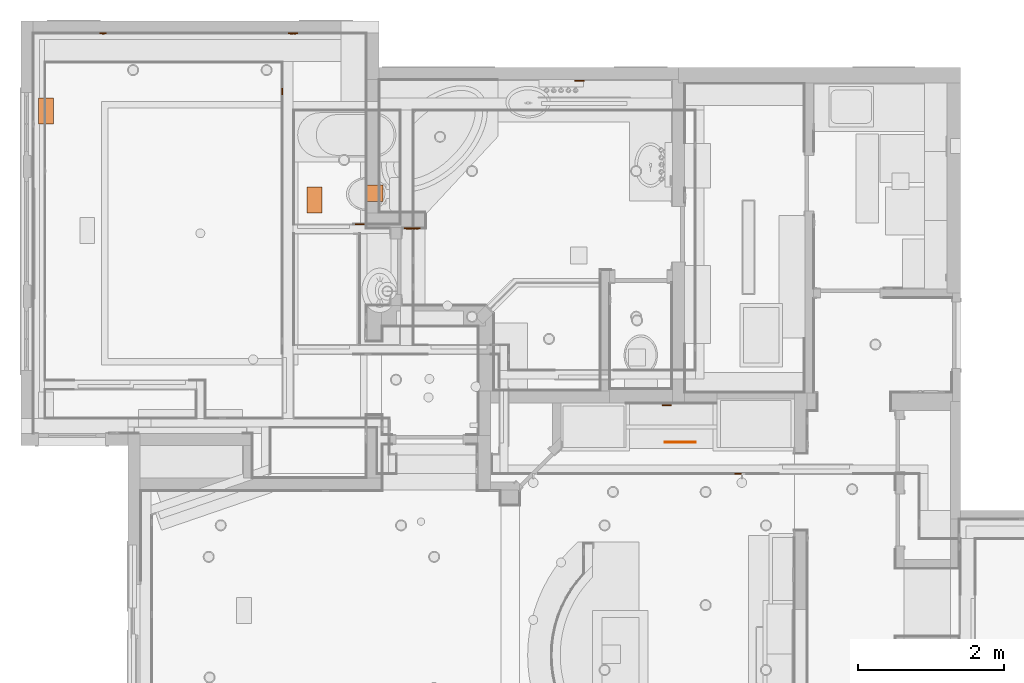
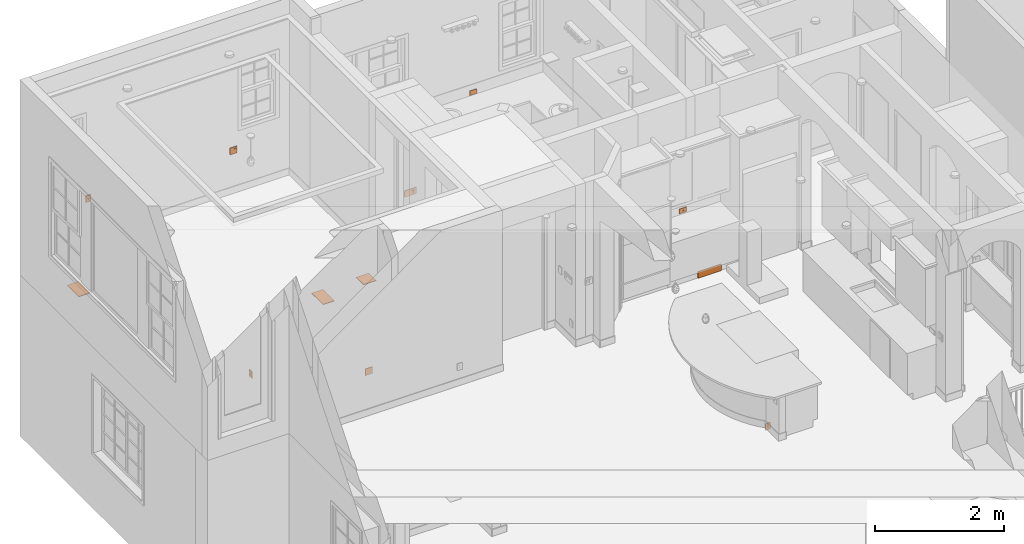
# One storey, part 68 of 81: 12 proxies.
"""IFC2X3 building model written with IfcOpenShell, lengths in feet."""

from ifc_helpers import new_model, entity, si_unit, converted_unit, derived_unit, direction, frame, frame_2d, origin, origin_2d_with_axis, place, context, subcontext, project, spatial, polyline, circle_curve, parameter, trimmed, segment, composite_curve, rectangle, outline, extrude, source, transform, mapped, material, type_object, type_shapes, element, save


model = new_model("IFC2X3")

# Units and contexts
model_context = context("Model", 3, precision=0.0001, world=origin(), true_north=direction((6.12303176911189e-17, 1.0)))
body_context = subcontext(model_context, "Body", "Model", "MODEL_VIEW")
ifc_project = project(units=[converted_unit("LENGTHUNIT", "FOOT", entity("IfcRatioMeasure", 0.3048), si_unit("LENGTHUNIT", "METRE"), dimensions=[1, 0, 0, 0, 0, 0, 0]), converted_unit("AREAUNIT", "SQUARE FOOT", entity("IfcRatioMeasure", 0.09290304), si_unit("AREAUNIT", "SQUARE_METRE"), dimensions=[2, 0, 0, 0, 0, 0, 0]), converted_unit("VOLUMEUNIT", "CUBIC FOOT", entity("IfcRatioMeasure", 0.028316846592), si_unit("VOLUMEUNIT", "CUBIC_METRE"), dimensions=[3, 0, 0, 0, 0, 0, 0]), converted_unit("PLANEANGLEUNIT", "DEGREE", entity("IfcRatioMeasure", 0.0174532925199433), si_unit("PLANEANGLEUNIT", "RADIAN"), dimensions=[0, 0, 0, 0, 0, 0, 0]), si_unit("MASSUNIT", "GRAM", prefix="KILO"), derived_unit("MASSDENSITYUNIT", [(si_unit("MASSUNIT", "GRAM", prefix="KILO"), 1), (si_unit("LENGTHUNIT", "METRE"), -3)]), derived_unit("MOMENTOFINERTIAUNIT", [(si_unit("LENGTHUNIT", "METRE"), 4)]), si_unit("TIMEUNIT", "SECOND"), si_unit("FREQUENCYUNIT", "HERTZ"), si_unit("THERMODYNAMICTEMPERATUREUNIT", "DEGREE_CELSIUS"), derived_unit("THERMALTRANSMITTANCEUNIT", [(si_unit("MASSUNIT", "GRAM", prefix="KILO"), 1), (si_unit("THERMODYNAMICTEMPERATUREUNIT", "KELVIN"), -1), (si_unit("TIMEUNIT", "SECOND"), -3)]), derived_unit("VOLUMETRICFLOWRATEUNIT", [(si_unit("LENGTHUNIT", "METRE"), 3), (si_unit("TIMEUNIT", "SECOND"), -1)]), si_unit("ELECTRICCURRENTUNIT", "AMPERE"), si_unit("ELECTRICVOLTAGEUNIT", "VOLT"), si_unit("POWERUNIT", "WATT"), si_unit("FORCEUNIT", "NEWTON"), si_unit("ILLUMINANCEUNIT", "LUX"), si_unit("LUMINOUSFLUXUNIT", "LUMEN"), si_unit("LUMINOUSINTENSITYUNIT", "CANDELA"), derived_unit("USERDEFINED", [(si_unit("MASSUNIT", "GRAM", prefix="KILO"), -1), (si_unit("LENGTHUNIT", "METRE"), -2), (si_unit("TIMEUNIT", "SECOND"), 3), (si_unit("LUMINOUSFLUXUNIT", "LUMEN"), 1)]), derived_unit("LINEARVELOCITYUNIT", [(si_unit("LENGTHUNIT", "METRE"), 1), (si_unit("TIMEUNIT", "SECOND"), -1)]), si_unit("PRESSUREUNIT", "PASCAL"), derived_unit("USERDEFINED", [(si_unit("LENGTHUNIT", "METRE"), -2), (si_unit("MASSUNIT", "GRAM", prefix="KILO"), 1), (si_unit("TIMEUNIT", "SECOND"), -2)]), derived_unit("LINEARFORCEUNIT", [(si_unit("MASSUNIT", "GRAM", prefix="KILO"), 1), (si_unit("LENGTHUNIT", "METRE"), 1), (si_unit("TIMEUNIT", "SECOND"), -2), (si_unit("LENGTHUNIT", "METRE"), -1)]), derived_unit("PLANARFORCEUNIT", [(si_unit("MASSUNIT", "GRAM", prefix="KILO"), 1), (si_unit("LENGTHUNIT", "METRE"), 1), (si_unit("TIMEUNIT", "SECOND"), -2), (si_unit("LENGTHUNIT", "METRE"), -2)])], contexts=[model_context])

# Site, building, storey
site_placement = place(None, origin())
site = spatial("IfcSite", under=ifc_project, at=site_placement, Name="Default", CompositionType="ELEMENT")
building_placement = place(site_placement, origin())
building = spatial("IfcBuilding", under=site, at=building_placement, CompositionType="ELEMENT")
storey_placement = place(building_placement, origin())
storey = spatial("IfcBuildingStorey", under=building, at=storey_placement, Name="First floor", CompositionType="ELEMENT", Elevation=0.0)

# Proxies
ifc_material = material(Name="Default New Material")
building_element_proxy_type_1 = type_object("IfcBuildingElementProxyType", Name="Switch 4:Switch 4", PredefinedType="NOTDEFINED", material=ifc_material)
shared_shape_1 = source(origin(), body_context, "Body", "SweptSolid", [
    extrude(outline(composite_curve([segment(polyline([(-0.0309162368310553, -0.0465871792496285), (0.0309162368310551, -0.0465871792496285)]), True, "CONTINUOUS"), segment(trimmed(circle_curve(frame_2d((-0.000264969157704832, 0.0), x_axis=(-1.0, 0.0)), 0.056059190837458), [parameter(123.794740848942)], [parameter(236.205259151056)], True, "PARAMETER"), True, "CONTINUOUS"), segment(polyline([(0.0309162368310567, 0.0465871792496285), (-0.0309162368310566, 0.0465871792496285)]), True, "CONTINUOUS"), segment(trimmed(circle_curve(frame_2d((0.000264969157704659, 0.0), x_axis=(1.0, 0.0)), 0.056059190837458), [parameter(123.794740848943)], [parameter(236.205259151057)], True, "PARAMETER"), True, "CONTINUOUS")], self_intersect=False), holes=[polyline([(0.0141623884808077, 0.0279286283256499), (0.0261732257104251, 0.0279286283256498), (0.026173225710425, -0.00693584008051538), (0.0141623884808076, -0.00693584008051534), (0.0141623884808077, 0.0279286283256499)]), polyline([(-0.0152702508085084, 0.0250466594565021), (-0.0152702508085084, -0.00448340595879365), (-0.0278178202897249, -0.00448340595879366), (-0.0278178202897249, 0.0250466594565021), (-0.0152702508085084, 0.0250466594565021)]), composite_curve([segment(polyline([(-0.0120315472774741, -0.041319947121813), (-0.0120315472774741, -0.0300186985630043)]), True, "CONTINUOUS"), segment(trimmed(circle_curve(frame_2d((-0.000284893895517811, -0.0300186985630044), x_axis=(-1.0, 0.0)), 0.0117466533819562), [parameter(180.0)], [parameter(0.0)], True, "PARAMETER"), False, "CONTINUOUS"), segment(polyline([(0.0114617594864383, -0.0300186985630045), (0.0114617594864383, -0.0413199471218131)]), True, "CONTINUOUS"), segment(polyline([(0.0114617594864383, -0.0413199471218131), (-0.0120315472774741, -0.041319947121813)]), True, "CONTINUOUS")], self_intersect=False)]), frame((-0.0114927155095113, 0.0416666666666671, 0.27060332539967), z_axis=(0.0, 1.0, 0.0), x_axis=(-1.0, 0.0, 0.0)), (0.0, 0.0, 1.0), 0.00420900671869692),
    extrude(outline(composite_curve([segment(polyline([(-0.0307631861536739, -0.0463565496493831), (0.0307631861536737, -0.0463565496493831)]), True, "CONTINUOUS"), segment(trimmed(circle_curve(frame_2d((-0.000263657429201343, 0.0), x_axis=(-1.0, 0.0)), 0.0557816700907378), [parameter(123.794740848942)], [parameter(236.205259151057)], True, "PARAMETER"), True, "CONTINUOUS"), segment(polyline([(0.030763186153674, 0.0463565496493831), (-0.0307631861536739, 0.0463565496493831)]), True, "CONTINUOUS"), segment(trimmed(circle_curve(frame_2d((0.00026365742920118, 0.0), x_axis=(1.0, 0.0)), 0.0557816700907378), [parameter(123.794740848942)], [parameter(236.205259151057)], True, "PARAMETER"), True, "CONTINUOUS")], self_intersect=False), holes=[polyline([(0.0140922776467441, 0.0247228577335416), (0.026043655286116, 0.0247228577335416), (0.0260436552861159, -0.00472751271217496), (0.014092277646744, -0.00472751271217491), (0.0140922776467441, 0.0247228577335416)]), polyline([(-0.0151946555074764, 0.0249226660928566), (-0.0151946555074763, -0.0044612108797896), (-0.0276801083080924, -0.00446121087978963), (-0.0276801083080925, 0.0249226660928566), (-0.0151946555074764, 0.0249226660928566)]), composite_curve([segment(polyline([(-0.0119719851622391, -0.0411153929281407), (-0.011971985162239, -0.0298700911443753)]), True, "CONTINUOUS"), segment(trimmed(circle_curve(frame_2d((-0.000283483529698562, -0.0298700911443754), x_axis=(-1.0, 0.0)), 0.0116885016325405), [parameter(180.0)], [parameter(0.0)], True, "PARAMETER"), False, "CONTINUOUS"), segment(polyline([(0.0114050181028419, -0.0298700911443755), (0.0114050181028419, -0.0411153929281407)]), True, "CONTINUOUS"), segment(polyline([(0.0114050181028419, -0.0411153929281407), (-0.0119719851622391, -0.0411153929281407)]), True, "CONTINUOUS")], self_intersect=False)]), frame((-0.0114927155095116, 0.0416666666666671, 0.145832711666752), z_axis=(0.0, 1.0, 0.0), x_axis=(-1.0, 0.0, 0.0)), (0.0, 0.0, 1.0), 0.00420900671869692),
    extrude(rectangle(XDim=0.0416666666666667, YDim=0.291666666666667, at=frame_2d((0.0, 1.38777878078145e-17), x_axis=(1.0, 0.0))), frame((-0.0114927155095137, 0.0208333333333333, 0.0), z_axis=(0.0, 0.0, 1.0), x_axis=(0.0, -1.0, 0.0)), (0.0, 0.0, 1.0), 0.416666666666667),
])
type_shapes(building_element_proxy_type_1, [shared_shape_1])
for number, where, z_axis, x_axis, name in (
    (1, (10.3635072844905, 29.7916666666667, 0.958335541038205), (0.0, 0.0, 1.0), (-1.0, 0.0, 0.0), "Switch 4:Switch 4"),
    (2, (-10.0833333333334, 46.9698260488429, 0.958333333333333), (0.0, 0.0, 1.0), (0.0, 1.0, 0.0), "Switch 4:Switch 4"),
    (3, (-18.1666666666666, 49.5833333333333, 13.125), (0.0, 0.0, 1.0), (-1.0, 0.0, 0.0), "Switch 4:Switch 4"),
):
    element("IfcBuildingElementProxy", number, at=place(storey_placement, frame(where, z_axis=z_axis, x_axis=x_axis)), inside=storey, type_object=building_element_proxy_type_1, material=ifc_material, Name=name, ObjectType="Switch 4:Switch 4", context=body_context, shape_type="MappedRepresentation", body=[
        mapped(shared_shape_1, transform((0.0, 0.0, 0.0), scale=1.0)),
    ])
building_element_proxy_type_2 = type_object("IfcBuildingElementProxyType", Name="Ceiling Duct:Ceiling Duct", PredefinedType="NOTDEFINED", material=ifc_material)
shared_shape_2 = source(origin(), body_context, "Body", "SweptSolid", [
    extrude(rectangle(XDim=0.666666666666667, YDim=1.16666666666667, at=origin_2d_with_axis()), frame((0.583333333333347, -0.333333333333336, -0.0416666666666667), z_axis=(0.0, 0.0, 1.0), x_axis=(0.0, 1.0, 0.0)), (0.0, 0.0, 1.0), 0.0416666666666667),
])
type_shapes(building_element_proxy_type_2, [shared_shape_2])
proxy_1_placement = place(storey_placement, frame((-9.0, 41.5, 8.41666666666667), z_axis=(0.0, 0.0, 1.0), x_axis=(0.0, 1.0, 0.0)))
element("IfcBuildingElementProxy", 4, at=proxy_1_placement, inside=storey, type_object=building_element_proxy_type_2, material=ifc_material, Name="Ceiling Duct:Ceiling Duct", ObjectType="Ceiling Duct:Ceiling Duct", context=body_context, shape_type="MappedRepresentation", body=[
    mapped(shared_shape_2, transform((0.0, 0.0, 0.0), scale=1.0)),
])
building_element_proxy_type_3 = type_object("IfcBuildingElementProxyType", Name="Switch 22:Switch 22", PredefinedType="NOTDEFINED", material=ifc_material)
shared_shape_3 = source(origin(), body_context, "Body", "SweptSolid", [
    extrude(outline(polyline([(-0.0259922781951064, -0.0993451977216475), (-0.00568037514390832, -0.0993451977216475), (-0.00432436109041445, -0.021559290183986), (0.021153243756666, 0.109511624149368), (0.0148437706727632, 0.110738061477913), (-0.0259922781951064, -0.0993451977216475)])), frame((0.216904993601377, 0.0482254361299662, 0.203805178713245), z_axis=(1.0, 0.0, 0.0), x_axis=(0.0, 0.981627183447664, 0.190808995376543)), (0.0, 0.0, 1.0), 0.104166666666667),
    extrude(outline(polyline([(-0.0259922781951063, -0.0993451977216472), (-0.00568037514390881, -0.0993451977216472), (-0.00432436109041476, -0.0215592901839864), (0.0211532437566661, 0.109511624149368), (0.0148437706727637, 0.110738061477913), (-0.0259922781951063, -0.0993451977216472)])), frame((0.0752383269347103, 0.0482254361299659, 0.203805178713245), z_axis=(1.0, 0.0, 0.0), x_axis=(0.0, 0.981627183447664, 0.190808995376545)), (0.0, 0.0, 1.0), 0.104166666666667),
    extrude(outline(polyline([(-0.102069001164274, -0.00649102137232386), (0.111946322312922, -0.00649102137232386), (0.111946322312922, -6.34558053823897e-05), (-0.0235644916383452, -6.34558053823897e-05), (-0.0982591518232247, 0.0131089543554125), (-0.102069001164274, -0.00649102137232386)])), frame((-0.0664283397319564, 0.0481576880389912, 0.2120154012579), z_axis=(1.0, 0.0, 0.0), x_axis=(0.0, 0.0, -1.0)), (0.0, 0.0, 1.0), 0.104166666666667),
    extrude(outline(polyline([(-0.102069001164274, -0.00649102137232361), (0.111946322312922, -0.00649102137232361), (0.111946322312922, -6.34558053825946e-05), (-0.0235644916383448, -6.34558053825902e-05), (-0.0982591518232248, 0.0131089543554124), (-0.102069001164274, -0.00649102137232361)])), frame((-0.208095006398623, 0.048157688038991, 0.2120154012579), z_axis=(1.0, 0.0, 0.0), x_axis=(0.0, 0.0, -1.0)), (0.0, 0.0, 1.0), 0.104166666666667),
    extrude(rectangle(XDim=0.0416666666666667, YDim=0.708333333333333, at=origin_2d_with_axis()), frame((0.0564883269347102, 0.0208333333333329, 0.0), z_axis=(0.0, 0.0, 1.0), x_axis=(0.0, -1.0, 0.0)), (0.0, 0.0, 1.0), 0.416666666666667),
])
type_shapes(building_element_proxy_type_3, [shared_shape_3])
proxy_2_placement = place(storey_placement, frame((-4.21434500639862, 40.8329881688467, 13.9583333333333), z_axis=(0.0, 0.0, 1.0), x_axis=(-1.0, 0.0, 0.0)))
element("IfcBuildingElementProxy", 5, at=proxy_2_placement, inside=storey, type_object=building_element_proxy_type_3, material=ifc_material, Name="Switch 22:Switch 22", ObjectType="Switch 22:Switch 22", context=body_context, shape_type="MappedRepresentation", body=[
    mapped(shared_shape_3, transform((0.0, 0.0, 0.0), scale=1.0)),
])
building_element_proxy_type_4 = type_object("IfcBuildingElementProxyType", Name="Switch 15:Switch 15", PredefinedType="NOTDEFINED", material=ifc_material)
shared_shape_4 = source(origin(), body_context, "Body", "SweptSolid", [
    extrude(outline(composite_curve([segment(polyline([(-0.0309162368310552, -0.0465871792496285), (0.030916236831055, -0.0465871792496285)]), True, "CONTINUOUS"), segment(trimmed(circle_curve(frame_2d((-0.000264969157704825, 0.0), x_axis=(-1.0, 0.0)), 0.056059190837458), [parameter(123.794740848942)], [parameter(236.205259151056)], True, "PARAMETER"), True, "CONTINUOUS"), segment(polyline([(0.0309162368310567, 0.0465871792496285), (-0.0309162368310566, 0.0465871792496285)]), True, "CONTINUOUS"), segment(trimmed(circle_curve(frame_2d((0.000264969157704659, 0.0), x_axis=(1.0, 0.0)), 0.056059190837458), [parameter(123.794740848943)], [parameter(236.205259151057)], True, "PARAMETER"), True, "CONTINUOUS")], self_intersect=False), holes=[polyline([(0.0141623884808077, 0.0279286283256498), (0.026173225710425, 0.0279286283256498), (0.0261732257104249, -0.00693584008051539), (0.0141623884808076, -0.00693584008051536), (0.0141623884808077, 0.0279286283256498)]), polyline([(-0.0152702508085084, 0.0250466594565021), (-0.0152702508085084, -0.00448340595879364), (-0.0278178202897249, -0.00448340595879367), (-0.027817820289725, 0.025046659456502), (-0.0152702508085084, 0.0250466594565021)]), composite_curve([segment(polyline([(-0.0120315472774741, -0.041319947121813), (-0.0120315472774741, -0.0300186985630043)]), True, "CONTINUOUS"), segment(trimmed(circle_curve(frame_2d((-0.000284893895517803, -0.0300186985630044), x_axis=(-1.0, 0.0)), 0.0117466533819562), [parameter(180.0)], [parameter(0.0)], True, "PARAMETER"), False, "CONTINUOUS"), segment(polyline([(0.0114617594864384, -0.0300186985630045), (0.0114617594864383, -0.0413199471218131)]), True, "CONTINUOUS"), segment(polyline([(0.0114617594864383, -0.0413199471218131), (-0.0120315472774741, -0.041319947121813)]), True, "CONTINUOUS")], self_intersect=False)]), frame((-0.0667122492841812, 0.0416666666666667, 0.14583333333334), z_axis=(0.0, 1.0, 0.0), x_axis=(0.0, 0.0, -1.0)), (0.0, 0.0, 1.0), 0.00420900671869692),
    extrude(outline(composite_curve([segment(polyline([(-0.0307631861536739, -0.0463565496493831), (0.0307631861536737, -0.0463565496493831)]), True, "CONTINUOUS"), segment(trimmed(circle_curve(frame_2d((-0.000263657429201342, 0.0), x_axis=(-1.0, 0.0)), 0.0557816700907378), [parameter(123.794740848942)], [parameter(236.205259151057)], True, "PARAMETER"), True, "CONTINUOUS"), segment(polyline([(0.030763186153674, 0.0463565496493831), (-0.0307631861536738, 0.0463565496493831)]), True, "CONTINUOUS"), segment(trimmed(circle_curve(frame_2d((0.000263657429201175, 0.0), x_axis=(1.0, 0.0)), 0.0557816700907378), [parameter(123.794740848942)], [parameter(236.205259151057)], True, "PARAMETER"), True, "CONTINUOUS")], self_intersect=False), holes=[polyline([(0.0140922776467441, 0.0247228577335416), (0.026043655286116, 0.0247228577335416), (0.0260436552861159, -0.00472751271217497), (0.014092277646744, -0.00472751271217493), (0.0140922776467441, 0.0247228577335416)]), polyline([(-0.0151946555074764, 0.0249226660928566), (-0.0151946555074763, -0.00446121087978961), (-0.0276801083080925, -0.00446121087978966), (-0.0276801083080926, 0.0249226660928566), (-0.0151946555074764, 0.0249226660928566)]), composite_curve([segment(polyline([(-0.0119719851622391, -0.0411153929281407), (-0.0119719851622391, -0.0298700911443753)]), True, "CONTINUOUS"), segment(trimmed(circle_curve(frame_2d((-0.000283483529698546, -0.0298700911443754), x_axis=(-1.0, 0.0)), 0.0116885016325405), [parameter(180.0)], [parameter(1.01777749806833e-13)], True, "PARAMETER"), False, "CONTINUOUS"), segment(polyline([(0.011405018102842, -0.0298700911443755), (0.0114050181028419, -0.0411153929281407)]), True, "CONTINUOUS"), segment(polyline([(0.0114050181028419, -0.0411153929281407), (-0.0119719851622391, -0.0411153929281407)]), True, "CONTINUOUS")], self_intersect=False)]), frame((0.058058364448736, 0.0416666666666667, 0.145833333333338), z_axis=(0.0, 1.0, 0.0), x_axis=(0.0, 0.0, -1.0)), (0.0, 0.0, 1.0), 0.00420900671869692),
    extrude(rectangle(XDim=0.0416666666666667, YDim=0.416666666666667, at=origin_2d_with_axis()), frame((-0.00444225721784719, 0.0208333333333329, 0.0), z_axis=(0.0, 0.0, 1.0), x_axis=(0.0, -1.0, 0.0)), (0.0, 0.0, 1.0), 0.291666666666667),
])
type_shapes(building_element_proxy_type_4, [shared_shape_4])
for number, where, z_axis, x_axis, name in (
    (6, (3.24555774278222, 47.4579881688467, 13.5833333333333), (0.0, 0.0, 1.0), (-1.0, 0.0, 0.0), "Switch 15:Switch 15"),
    (7, (7.16222440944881, 32.875, 13.7083333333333), (0.0, 0.0, 1.0), (-1.0, 0.0, 0.0), "Switch 15:Switch 15"),
):
    element("IfcBuildingElementProxy", number, at=place(storey_placement, frame(where, z_axis=z_axis, x_axis=x_axis)), inside=storey, type_object=building_element_proxy_type_4, material=ifc_material, Name=name, ObjectType="Switch 15:Switch 15", context=body_context, shape_type="MappedRepresentation", body=[
        mapped(shared_shape_4, transform((0.0, 0.0, 0.0), scale=1.0)),
    ])
building_element_proxy_type_5 = type_object("IfcBuildingElementProxyType", Name="Switch 6:Switch 6", PredefinedType="NOTDEFINED", material=ifc_material)
shared_shape_5 = source(origin(), body_context, "Body", "SweptSolid", [
    extrude(outline(polyline([(-0.0254447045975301, -0.101047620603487), (-0.00704945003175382, -0.101047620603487), (-0.00576030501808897, -0.0270975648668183), (0.021685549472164, 0.114099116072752), (0.0165689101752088, 0.11509369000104), (-0.0254447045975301, -0.101047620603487)])), frame((0.0159752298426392, 0.0473630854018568, 0.202286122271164), z_axis=(1.0, 0.0, 0.0), x_axis=(0.0, 0.981627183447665, 0.190808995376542)), (0.0, 0.0, 1.0), 0.104166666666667),
    extrude(outline(polyline([(-0.105609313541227, -0.00595439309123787), (0.114577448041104, -0.00595439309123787), (0.114577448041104, -0.000741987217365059), (-0.0216969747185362, -0.00074198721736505), (-0.101848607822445, 0.0133927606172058), (-0.105609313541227, -0.00595439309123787)])), frame((-0.129858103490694, 0.047621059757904, 0.211324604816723), z_axis=(1.0, 0.0, 0.0), x_axis=(0.0, 0.0, -1.0)), (0.0, 0.0, 1.0), 0.104166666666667),
    extrude(rectangle(XDim=0.0416666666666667, YDim=0.416666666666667, at=frame_2d((0.0, -1.38777878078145e-17), x_axis=(1.0, 0.0))), frame((-0.00485810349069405, 0.0208333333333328, 0.0), z_axis=(0.0, 0.0, 1.0), x_axis=(0.0, -1.0, 0.0)), (0.0, 0.0, 1.0), 0.416666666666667),
])
type_shapes(building_element_proxy_type_5, [shared_shape_5])
proxy_3_placement = place(storey_placement, frame((-6.62014189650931, 40.9583333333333, 3.54166666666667)))
element("IfcBuildingElementProxy", 8, at=proxy_3_placement, inside=storey, type_object=building_element_proxy_type_5, material=ifc_material, Name="Switch 6:Switch 6", ObjectType="Switch 6:Switch 6", context=body_context, shape_type="MappedRepresentation", body=[
    mapped(shared_shape_5, transform((0.0, 0.0, 0.0), scale=1.0)),
])
proxy_4_placement = place(storey_placement, frame((-9.62985810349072, 49.5833333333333, 13.125), z_axis=(0.0, 0.0, 1.0), x_axis=(-1.0, 0.0, 0.0)))
element("IfcBuildingElementProxy", 9, at=proxy_4_placement, inside=storey, type_object=building_element_proxy_type_5, material=ifc_material, Name="Switch 6:Switch 6", ObjectType="Switch 6:Switch 6", context=body_context, shape_type="MappedRepresentation", body=[
    mapped(shared_shape_5, transform((0.0, 0.0, 0.0), scale=1.0)),
])
building_element_proxy_type_6 = type_object("IfcBuildingElementProxyType", Name="Ceiling Duct:Ceiling Duct", PredefinedType="NOTDEFINED", material=ifc_material)
shared_shape_6 = source(origin(), body_context, "Body", "SweptSolid", [
    extrude(rectangle(XDim=0.75, YDim=0.75, at=frame_2d((0.0, 5.55111512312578e-17), x_axis=(1.0, 0.0))), frame((0.375000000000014, -0.375000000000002, -0.0416666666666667), z_axis=(0.0, 0.0, 1.0), x_axis=(0.0, 1.0, 0.0)), (0.0, 0.0, 1.0), 0.0416666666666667),
])
type_shapes(building_element_proxy_type_6, [shared_shape_6])
proxy_5_placement = place(storey_placement, frame((-6.33333333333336, 42.0, 8.41666666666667), z_axis=(0.0, 0.0, 1.0), x_axis=(0.0, 1.0, 0.0)))
element("IfcBuildingElementProxy", 10, at=proxy_5_placement, inside=storey, type_object=building_element_proxy_type_6, material=ifc_material, Name="Ceiling Duct:Ceiling Duct", ObjectType="Ceiling Duct:Ceiling Duct", context=body_context, shape_type="MappedRepresentation", body=[
    mapped(shared_shape_6, transform((0.0, 0.0, 0.0), scale=1.0)),
])
building_element_proxy_type_7 = type_object("IfcBuildingElementProxyType", Name="Floor Duct:Floor Duct", PredefinedType="NOTDEFINED", material=ifc_material)
shared_shape_7 = source(origin(), body_context, "Body", "SweptSolid", [
    extrude(rectangle(XDim=1.16666666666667, YDim=0.666666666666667, at=origin_2d_with_axis()), frame((0.0, 0.0, 0.0), z_axis=(0.0, 0.0, 1.0), x_axis=(-1.0, 0.0, 0.0)), (0.0, 0.0, 1.0), 0.0416666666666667),
])
type_shapes(building_element_proxy_type_7, [shared_shape_7])
proxy_6_placement = place(storey_placement, frame((-20.7291666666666, 46.0833133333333, 10.6666666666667), z_axis=(0.0, 0.0, 1.0), x_axis=(0.0, 1.0, 0.0)))
element("IfcBuildingElementProxy", 11, at=proxy_6_placement, inside=storey, type_object=building_element_proxy_type_7, material=ifc_material, Name="Floor Duct:Floor Duct", ObjectType="Floor Duct:Floor Duct", context=body_context, shape_type="MappedRepresentation", body=[
    mapped(shared_shape_7, transform((0.0, 0.0, 0.0), scale=1.0)),
])
building_element_proxy_type_8 = type_object("IfcBuildingElementProxyType", Name="Wall Duct:Wall Duct", PredefinedType="NOTDEFINED", material=ifc_material)
shared_shape_8 = source(origin(), body_context, "Body", "SweptSolid", [
    extrude(rectangle(XDim=1.375, YDim=0.041666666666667, at=origin_2d_with_axis()), frame((0.0, -0.0208333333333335, 0.0), z_axis=(0.0, 0.0, 1.0), x_axis=(-1.0, 0.0, 0.0)), (0.0, 0.0, 1.0), 0.416666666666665),
])
type_shapes(building_element_proxy_type_8, [shared_shape_8])
proxy_7_placement = place(storey_placement, frame((7.77265605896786, 31.2083333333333, 10.6666666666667)))
element("IfcBuildingElementProxy", 12, at=proxy_7_placement, inside=storey, type_object=building_element_proxy_type_8, material=ifc_material, Name="Wall Duct:Wall Duct", ObjectType="Wall Duct:Wall Duct", context=body_context, shape_type="MappedRepresentation", body=[
    mapped(shared_shape_8, transform((0.0, 0.0, 0.0), scale=1.0)),
])

save(model, "model.ifc")
